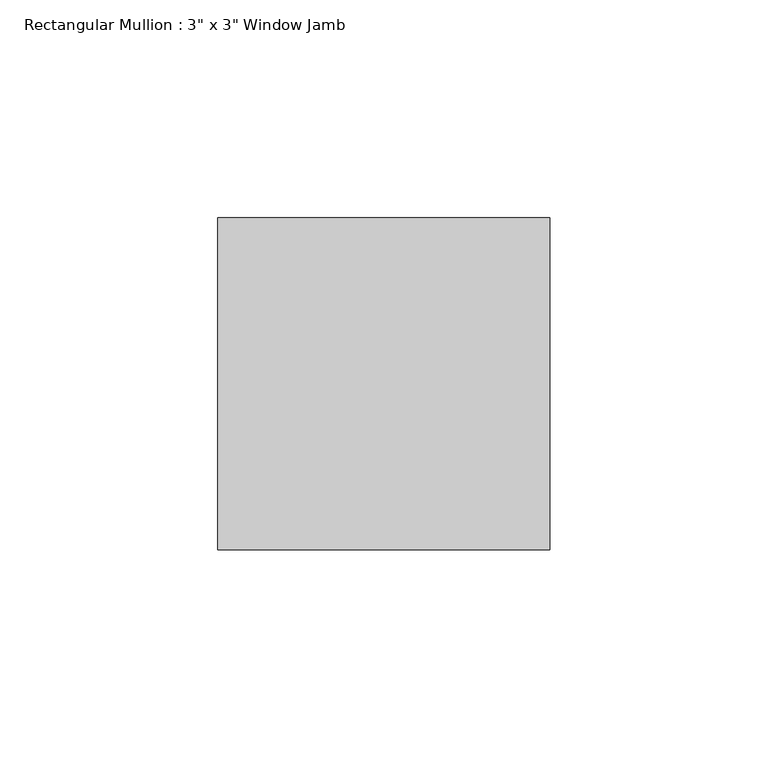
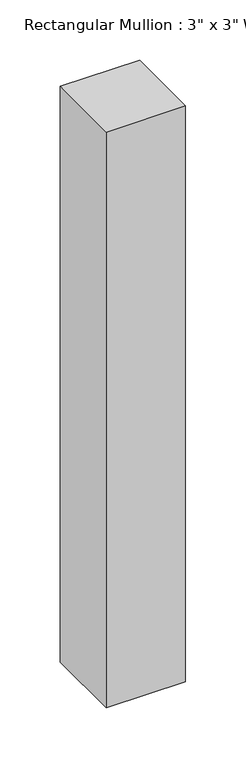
"""IFC4 building model written with IfcOpenShell, lengths in millimetres: member geometry."""

import ifcopenshell
import ifcopenshell.guid

model = None  # the IFC model being written
_history = None  # IfcOwnerHistory: only IFC2X3 demands one
_inside = {}  # id of a spatial element -> (the spatial element, [elements in it])
_under = {}  # id of a project, library or spatial element -> (it, [spatial elements below it])
_declared = {}  # id of a project -> (the project, [libraries it declares])
_typed = {}  # id of a type object -> (the type object, [elements of that type])
_made_of = {}  # id of a material, layer set ... -> (it, [elements and type objects made of it])


def new_model(schema):
    """Start an empty IFC model of exactly this schema.

    Asked for "IFC4X3", IfcOpenShell would pick the latest addendum, in which some entities
    have other attributes; the version numbers below select the first issue.
    IFC2X3 requires an IfcOwnerHistory on every rooted entity: one is made here for all.
    """
    global model, _history
    if schema == "IFC4X3":
        model = ifcopenshell.file(schema_version=(4, 3, 0, 0))
    else:
        model = ifcopenshell.file(schema=schema)
    _inside.clear()
    _under.clear()
    _declared.clear()
    _typed.clear()
    _made_of.clear()
    _history = None
    if model.schema == "IFC2X3":
        org = make("IfcOrganization", Name="unknown")
        user = make(
            "IfcPersonAndOrganization",
            ThePerson=make("IfcPerson", FamilyName="unknown"),
            TheOrganization=org,
        )
        app = make(
            "IfcApplication",
            ApplicationDeveloper=org,
            Version="unknown",
            ApplicationFullName="unknown",
            ApplicationIdentifier="unknown",
        )
        _history = make(
            "IfcOwnerHistory",
            OwningUser=user,
            OwningApplication=app,
            ChangeAction="ADDED",
            CreationDate=0,
        )
    return model


def make(cls, **values):
    """One entity of the class cls with the attributes given. An attribute that is None is left unset."""
    return model.create_entity(
        cls, **{name: value for name, value in values.items() if value is not None}
    )


def rooted(cls, **values):
    """An entity with a GlobalId (a new one), such as an element, a storey or a relation."""
    return make(cls, GlobalId=ifcopenshell.guid.new(), OwnerHistory=_history, **values)


def si_unit(unit_type, name, prefix=None):
    """IfcSIUnit, for example si_unit("LENGTHUNIT", "METRE", prefix="MILLI")."""
    return make("IfcSIUnit", UnitType=unit_type, Prefix=prefix, Name=name)


def assignment(units):
    """IfcUnitAssignment: the units of a project."""
    return None if units is None else make("IfcUnitAssignment", Units=units)


def point(xyz):
    """IfcCartesianPoint."""
    return None if xyz is None else make("IfcCartesianPoint", Coordinates=xyz)


def direction(xyz):
    """IfcDirection."""
    return None if xyz is None else make("IfcDirection", DirectionRatios=xyz)


def frame(location, z_axis=None, x_axis=None):
    """IfcAxis2Placement3D, a coordinate frame: its origin and axes. An axis left out is left unset."""
    return make(
        "IfcAxis2Placement3D",
        Location=point(location),
        Axis=direction(z_axis),
        RefDirection=direction(x_axis),
    )


def origin():
    """The frame at (0, 0, 0) with its axes left unset."""
    return frame((0.0, 0.0, 0.0))


def place(relative_to, where):
    """IfcLocalPlacement: puts the frame where relative to a parent placement (None: the world)."""
    return make(
        "IfcLocalPlacement", PlacementRelTo=relative_to, RelativePlacement=where
    )


def context(
    kind, dimensions, precision=None, world=None, true_north=None, identifier=None
):
    """IfcGeometricRepresentationContext, for example the 3D "Model" context."""
    return make(
        "IfcGeometricRepresentationContext",
        ContextIdentifier=identifier,
        ContextType=kind,
        CoordinateSpaceDimension=dimensions,
        Precision=precision,
        WorldCoordinateSystem=world,
        TrueNorth=true_north,
    )


def project(units=None, contexts=None):
    """IfcProject with its units and contexts."""
    return rooted(
        "IfcProject",
        Name="project",
        RepresentationContexts=contexts,
        UnitsInContext=assignment(units),
    )


def spatial(cls, under=None, at=None, **own):
    """A site, building, storey or space (cls), placed at a placement, below another one or the project."""
    s = rooted(cls, ObjectPlacement=at, **own)
    if under is not None:
        _under.setdefault(under.id(), (under, []))[1].append(s)
    return s


def polyline(points):
    """IfcPolyline through the points."""
    return make("IfcPolyline", Points=[point(p) for p in points])


def outline(outer, holes=None, kind="AREA"):
    """IfcArbitraryClosedProfileDef: a profile drawn as a closed curve; with holes, ...WithVoids."""
    if holes is None:
        return make("IfcArbitraryClosedProfileDef", ProfileType=kind, OuterCurve=outer)
    return make(
        "IfcArbitraryProfileDefWithVoids",
        ProfileType=kind,
        OuterCurve=outer,
        InnerCurves=holes,
    )


def extrude(swept, where, along, depth):
    """IfcExtrudedAreaSolid: the profile swept, set in the frame where, extruded along a direction by depth."""
    return make(
        "IfcExtrudedAreaSolid",
        SweptArea=swept,
        Position=where,
        ExtrudedDirection=direction(along),
        Depth=depth,
    )


def shape(context_of_items, identifier, shape_type, items):
    """IfcShapeRepresentation: the items that make up one representation, for example the "Body"."""
    return make(
        "IfcShapeRepresentation",
        ContextOfItems=context_of_items,
        RepresentationIdentifier=identifier,
        RepresentationType=shape_type,
        Items=items,
    )


def source(mapping_origin, context_of_items, identifier, shape_type, items):
    """IfcRepresentationMap: a shape defined once, which mapped items show again and again."""
    return make(
        "IfcRepresentationMap",
        MappingOrigin=mapping_origin,
        MappedRepresentation=shape(context_of_items, identifier, shape_type, items),
    )


def transform(
    local_origin,
    x_axis=None,
    y_axis=None,
    z_axis=None,
    scale=None,
    scale2=None,
    scale3=None,
    uniform=True,
):
    """IfcCartesianTransformationOperator3D, or its non-uniform kind. x_axis, y_axis, z_axis: its Axis1, 2, 3."""
    if uniform:
        return make(
            "IfcCartesianTransformationOperator3D",
            Axis1=direction(x_axis),
            Axis2=direction(y_axis),
            LocalOrigin=point(local_origin),
            Scale=scale,
            Axis3=direction(z_axis),
        )
    return make(
        "IfcCartesianTransformationOperator3DnonUniform",
        Axis1=direction(x_axis),
        Axis2=direction(y_axis),
        LocalOrigin=point(local_origin),
        Scale=scale,
        Axis3=direction(z_axis),
        Scale2=scale2,
        Scale3=scale3,
    )


def mapped(mapping_source, mapping_target):
    """IfcMappedItem: shows the shape of a source again, moved by a transform."""
    return make(
        "IfcMappedItem", MappingSource=mapping_source, MappingTarget=mapping_target
    )


def made_of(thing, what):
    """Note that an element or type object is made of a material, layer set ...; save() writes the relation."""
    if what is not None:
        _made_of.setdefault(what.id(), (what, []))[1].append(thing)
    return thing


def element(
    cls,
    number,
    at=None,
    inside=None,
    cuts=None,
    type_object=None,
    material=None,
    context=None,
    identifier="Body",
    shape_type=None,
    held_by="IfcProductDefinitionShape",
    body=None,
    shapes=None,
    **own,
):
    """One element of the class cls, such as IfcWall. Its Tag is "e" and its number.

    at: its placement. inside: the storey or other place that contains it. cuts: it is an
    opening in that element (IfcRelVoidsElement). A single representation is given by context,
    identifier, shape_type and body (its items); several are given by shapes. held_by: the class
    of the entity that holds the representations. save() writes the other relations.
    """
    e = rooted(cls, Tag="e%d" % number, ObjectPlacement=at, **own)
    if body is not None:
        shapes = [shape(context, identifier, shape_type, body)]
    if shapes is not None:
        e.Representation = make(held_by, Representations=shapes)
    if inside is not None:
        _inside.setdefault(inside.id(), (inside, []))[1].append(e)
    if cuts is not None:
        rooted(
            "IfcRelVoidsElement", RelatingBuildingElement=cuts, RelatedOpeningElement=e
        )
    if type_object is not None:
        _typed.setdefault(type_object.id(), (type_object, []))[1].append(e)
    return made_of(e, material)


def aggregate(whole, parts):
    """IfcRelAggregates: a whole, such as a stair, and the parts it consists of."""
    return rooted("IfcRelAggregates", RelatingObject=whole, RelatedObjects=parts)


def save(model, path):
    """Write the relations noted so far, then the file.

    IfcRelAggregates (storeys below a building ...), IfcRelContainedInSpatialStructure (elements
    in a storey), IfcRelDefinesByType, IfcRelAssociatesMaterial and IfcRelDeclares: one each for
    every whole, place, type object, material and project.
    """
    for whole, parts in _under.values():
        aggregate(whole, parts)
    for where, things in _inside.values():
        rooted(
            "IfcRelContainedInSpatialStructure",
            RelatedElements=things,
            RelatingStructure=where,
        )
    for kind, things in _typed.values():
        rooted("IfcRelDefinesByType", RelatedObjects=things, RelatingType=kind)
    for what, things in _made_of.values():
        rooted("IfcRelAssociatesMaterial", RelatedObjects=things, RelatingMaterial=what)
    for by, libraries in _declared.values():
        rooted("IfcRelDeclares", RelatingContext=by, RelatedDefinitions=libraries)
    model.write(path)


def member_378e0c06(model_context):
    return source(origin(), model_context, "Body", "SweptSolid", [
        extrude(outline(polyline([(38.1, 50.8), (38.1, -25.4), (-38.1, -25.4), (-38.1, 50.8), (38.1, 50.8)])), frame((0.0, 0.0, -584.2), z_axis=(0.0, 0.0, 1.0), x_axis=(1.0, 0.0, 0.0)), (0.0, 0.0, 1.0), 584.2),
    ])


if __name__ == "__main__":
    model = new_model("IFC4")
    model_context = context("Model", 3, world=origin())
    ifc_project = project(units=[si_unit("LENGTHUNIT", "METRE", prefix="MILLI")], contexts=[model_context])
    site = spatial("IfcSite", under=ifc_project)
    building = spatial("IfcBuilding", under=site)
    placement = place(None, origin())
    member_shape = member_378e0c06(model_context)
    element("IfcMember", 1, ObjectType="Rectangular Mullion : 3\" x 3\" Window Jamb", at=placement, inside=building, context=model_context, shape_type="MappedRepresentation", body=[
        mapped(member_shape, transform((0.0, 0.0, 0.0), x_axis=(1.0, 0.0, 0.0), y_axis=(0.0, 1.0, 0.0), z_axis=(0.0, 0.0, 1.0))),
    ])
    save(model, "model.ifc")
